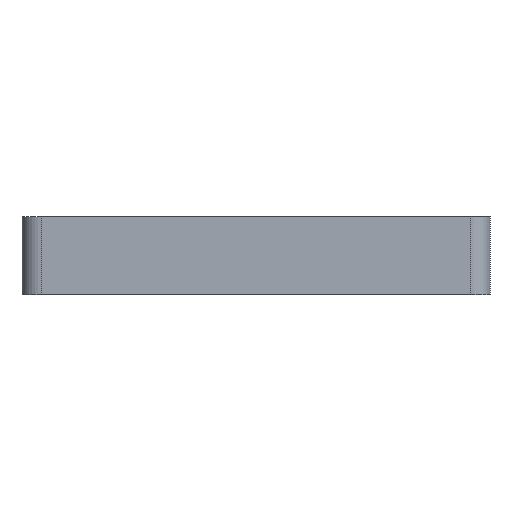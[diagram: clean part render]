
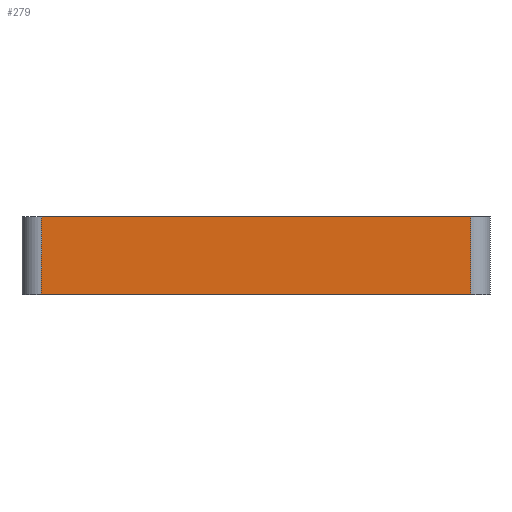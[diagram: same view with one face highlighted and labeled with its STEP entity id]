
A CAD part, left-side view. The second image highlights one B-rep face of the part: STEP entity #279.
In plain terms, the highlighted planar face has unit normal (-1, 0, 0).
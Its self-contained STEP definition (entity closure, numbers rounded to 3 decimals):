
#20 = EDGE_LOOP ( 'NONE', ( #455, #985, #75, #551 ) ) ;
#72 = VERTEX_POINT ( 'NONE', #837 ) ;
#75 = ORIENTED_EDGE ( 'NONE', *, *, #406, .T. ) ;
#81 = FACE_OUTER_BOUND ( 'NONE', #20, .T. ) ;
#91 = DIRECTION ( 'NONE',  ( 0., 0., 1. ) ) ;
#97 = DIRECTION ( 'NONE',  ( 0., 1., 0. ) ) ;
#98 = CARTESIAN_POINT ( 'NONE',  ( 0., -30., 10. ) ) ;
#136 = EDGE_CURVE ( 'NONE', #489, #528, #437, .T. ) ;
#153 = CARTESIAN_POINT ( 'NONE',  ( 0., -27.5, 10. ) ) ;
#165 = VECTOR ( 'NONE', #310, 1000. ) ;
#222 = VECTOR ( 'NONE', #679, 1000. ) ;
#279 = ADVANCED_FACE ( 'NONE', ( #81 ), #792, .T. ) ;
#310 = DIRECTION ( 'NONE',  ( 0., 1., 0. ) ) ;
#325 = VECTOR ( 'NONE', #97, 1000. ) ;
#385 = CARTESIAN_POINT ( 'NONE',  ( 0., -30., 10. ) ) ;
#406 = EDGE_CURVE ( 'NONE', #694, #489, #572, .T. ) ;
#435 = CARTESIAN_POINT ( 'NONE',  ( 0., 27.5, 0. ) ) ;
#437 = LINE ( 'NONE', #677, #827 ) ;
#455 = ORIENTED_EDGE ( 'NONE', *, *, #865, .F. ) ;
#489 = VERTEX_POINT ( 'NONE', #815 ) ;
#524 = DIRECTION ( 'NONE',  ( 0., 0., -1. ) ) ;
#528 = VERTEX_POINT ( 'NONE', #435 ) ;
#551 = ORIENTED_EDGE ( 'NONE', *, *, #136, .T. ) ;
#558 = CARTESIAN_POINT ( 'NONE',  ( 0., -30., 0. ) ) ;
#566 = EDGE_CURVE ( 'NONE', #72, #694, #998, .T. ) ;
#572 = LINE ( 'NONE', #385, #165 ) ;
#595 = CARTESIAN_POINT ( 'NONE',  ( 0., -27.5, 10. ) ) ;
#677 = CARTESIAN_POINT ( 'NONE',  ( 0., 27.5, 10. ) ) ;
#679 = DIRECTION ( 'NONE',  ( 0., 0., 1. ) ) ;
#694 = VERTEX_POINT ( 'NONE', #153 ) ;
#717 = DIRECTION ( 'NONE',  ( -1., 0., 0. ) ) ;
#738 = LINE ( 'NONE', #558, #325 ) ;
#790 = AXIS2_PLACEMENT_3D ( 'NONE', #98, #717, #91 ) ;
#792 = PLANE ( 'NONE',  #790 ) ;
#815 = CARTESIAN_POINT ( 'NONE',  ( 0., 27.5, 10. ) ) ;
#827 = VECTOR ( 'NONE', #524, 1000. ) ;
#837 = CARTESIAN_POINT ( 'NONE',  ( 0., -27.5, 0. ) ) ;
#865 = EDGE_CURVE ( 'NONE', #72, #528, #738, .T. ) ;
#985 = ORIENTED_EDGE ( 'NONE', *, *, #566, .T. ) ;
#998 = LINE ( 'NONE', #595, #222 ) ;
